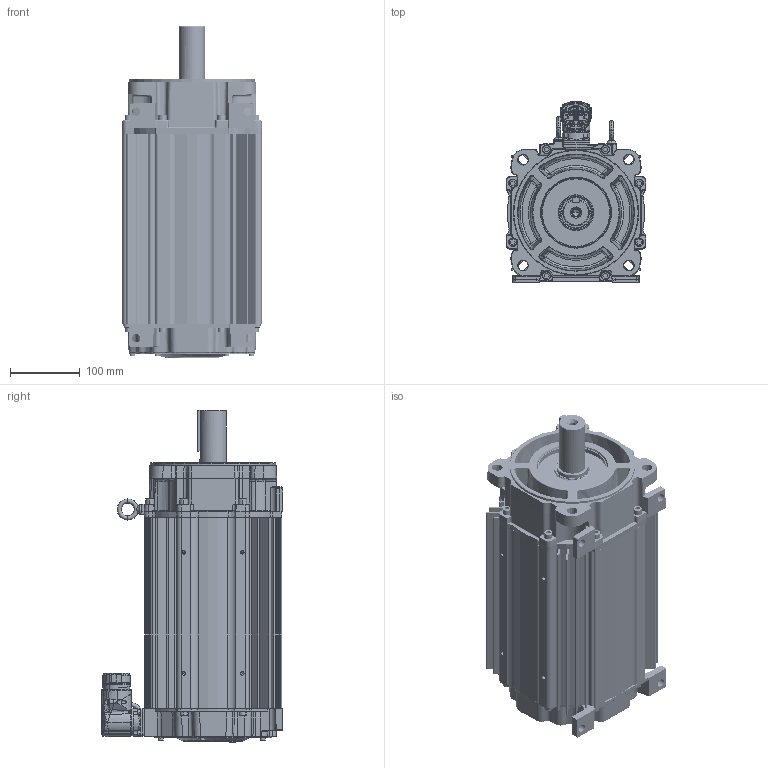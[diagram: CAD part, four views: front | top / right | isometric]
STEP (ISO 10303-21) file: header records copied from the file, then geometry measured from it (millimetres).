
FILE_DESCRIPTION((''),'2;1');
FILE_NAME('10001873164_ASM','2020-01-16T09:33:16',('VThimma'),('Rockwell Automation'),'CREO PARAMETRIC BY PTC INC, 2017380','CREO PARAMETRIC BY PTC INC, 2017380','');
FILE_SCHEMA(('CONFIG_CONTROL_DESIGN','SHAPE_APPEARANCE_LAYERS_GROUPS'));
Products named in the file (22): 10001365220; 10001238886_AF0; 10001298482_AF22; 10001284445_ASM; CH31X150; 10001406656_ASM; 10001334964; 10001398525_ASM; 10001257630_AF304; 10001300098_AF276; 10001314835_ASM; 10001586886; 0002-5005; 10000801000; 10000801001; 10000801002_ASM; 221404-Q12; 10000569218; 10001290343; 0011-2066; 10001609981; 10001873164_ASM
Assembly tree (45 placements, depth 4):
  10001873164_ASM
    10001406656_ASM
      10001365220
      10001284445_ASM
        10001238886_AF0
        10001298482_AF22
      CH31X150  x8
    10001398525_ASM
      10001334964
    10001314835_ASM
      10001257630_AF304
      10001300098_AF276
    10001586886  x8
    0002-5005  x2
    10000801002_ASM
      10000801000
      10000801001
    221404-Q12  x10
    10000569218
    10001290343
    0011-2066
    10001609981
Bounding box: 200.45 x 260.6 x 476.79 mm (x, y, z)
Surface area: 1159700.5 mm2 (no closed solid volume)
Topology: 0 solids, 50 shells, 4826 faces, 11955 edges, 7312 vertices
Faces by surface type: cylinder 1387, plane 1343, bspline 878, torus 588, cone 547, sphere 76, extrusion 7
Entity records: 213366 total; most frequent: CARTESIAN_POINT 66836, ORIENTED_EDGE 18816, DIRECTION 17323, PRESENTATION_STYLE_ASSIGNMENT 13184, STYLED_ITEM 13184, CURVE_STYLE 9421, EDGE_CURVE 9414, AXIS2_PLACEMENT_3D 6861
